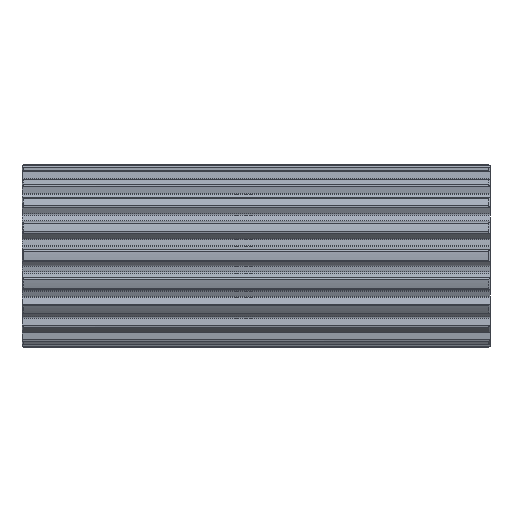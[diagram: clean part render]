
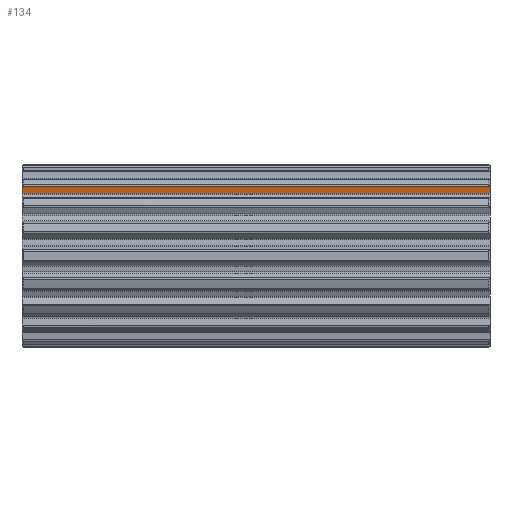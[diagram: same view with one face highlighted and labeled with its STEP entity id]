
A CAD part, top view. The second image highlights one B-rep face of the part: STEP entity #134.
In plain terms, the highlighted planar face has unit normal (0, -0.191, 0.982).
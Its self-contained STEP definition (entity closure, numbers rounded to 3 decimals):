
#134=ADVANCED_FACE('',(#412),#413,.T.);
#412=FACE_OUTER_BOUND('',#850,.T.);
#413=PLANE('',#851);
#850=EDGE_LOOP('',(#1635,#1636,#1637,#1638,#1639,#1640));
#851=AXIS2_PLACEMENT_3D('',#1641,#1642,#1643);
#1635=ORIENTED_EDGE('',*,*,#3177,.T.);
#1636=ORIENTED_EDGE('',*,*,#3324,.F.);
#1637=ORIENTED_EDGE('',*,*,#3325,.T.);
#1638=ORIENTED_EDGE('',*,*,#3326,.T.);
#1639=ORIENTED_EDGE('',*,*,#3327,.T.);
#1640=ORIENTED_EDGE('',*,*,#3322,.F.);
#1641=CARTESIAN_POINT('',(0.0,22.571,19.585));
#1642=DIRECTION('',(0.,-0.191,0.982));
#1643=DIRECTION('',(0.,-0.982,-0.191));
#3177=EDGE_CURVE('',#3884,#3882,#3885,.T.);
#3322=EDGE_CURVE('',#3884,#4150,#4151,.T.);
#3324=EDGE_CURVE('',#4153,#3882,#4154,.T.);
#3325=EDGE_CURVE('',#4153,#4155,#4156,.T.);
#3326=EDGE_CURVE('',#4155,#4157,#4158,.T.);
#3327=EDGE_CURVE('',#4157,#4150,#4159,.T.);
#3882=VERTEX_POINT('',#5212);
#3884=VERTEX_POINT('',#5214);
#3885=(B_SPLINE_CURVE(2,(#5216,#5217,#5218),.UNSPECIFIED.,.F.,.F.)B_SPLINE_CURVE_WITH_KNOTS((3,3),(0.0,0.758),.UNSPECIFIED.)RATIONAL_B_SPLINE_CURVE((1.0,1.,1.0))BOUNDED_CURVE()REPRESENTATION_ITEM('')GEOMETRIC_REPRESENTATION_ITEM()CURVE());
#4150=VERTEX_POINT('',#6052);
#4151=LINE('',#6053,#6054);
#4153=VERTEX_POINT('',#6063);
#4154=LINE('',#6064,#6065);
#4155=VERTEX_POINT('',#6066);
#4156=LINE('',#6067,#6068);
#4157=VERTEX_POINT('',#6069);
#4158=LINE('',#6070,#6071);
#4159=(B_SPLINE_CURVE(2,(#6073,#6074,#6075),.UNSPECIFIED.,.F.,.F.)B_SPLINE_CURVE_WITH_KNOTS((3,3),(0.0,0.758),.UNSPECIFIED.)RATIONAL_B_SPLINE_CURVE((1.0,1.,1.0))BOUNDED_CURVE()REPRESENTATION_ITEM('')GEOMETRIC_REPRESENTATION_ITEM()CURVE());
#5212=CARTESIAN_POINT('',(0.0,23.638,19.792));
#5214=CARTESIAN_POINT('',(0.107,23.758,19.816));
#5216=CARTESIAN_POINT('',(0.5,24.197,19.901));
#5217=CARTESIAN_POINT('',(0.247,23.915,19.846));
#5218=CARTESIAN_POINT('',(0.0,23.638,19.792));
#6052=CARTESIAN_POINT('',(159.893,23.758,19.816));
#6053=CARTESIAN_POINT('',(0.0,23.758,19.816));
#6054=VECTOR('',#7648,1.0);
#6063=CARTESIAN_POINT('',(0.0,21.384,19.354));
#6064=CARTESIAN_POINT('',(0.0,21.384,19.354));
#6065=VECTOR('',#7649,1.0);
#6066=CARTESIAN_POINT('',(160.0,21.384,19.354));
#6067=CARTESIAN_POINT('',(0.0,21.384,19.354));
#6068=VECTOR('',#7650,1.0);
#6069=CARTESIAN_POINT('',(160.0,23.638,19.792));
#6070=CARTESIAN_POINT('',(160.0,21.384,19.354));
#6071=VECTOR('',#7651,1.0);
#6073=CARTESIAN_POINT('',(160.0,23.638,19.792));
#6074=CARTESIAN_POINT('',(159.753,23.915,19.846));
#6075=CARTESIAN_POINT('',(159.5,24.197,19.901));
#7648=DIRECTION('',(1.0,0.,0.));
#7649=DIRECTION('',(0.,0.982,0.191));
#7650=DIRECTION('',(1.0,0.,0.));
#7651=DIRECTION('',(0.,0.982,0.191));
